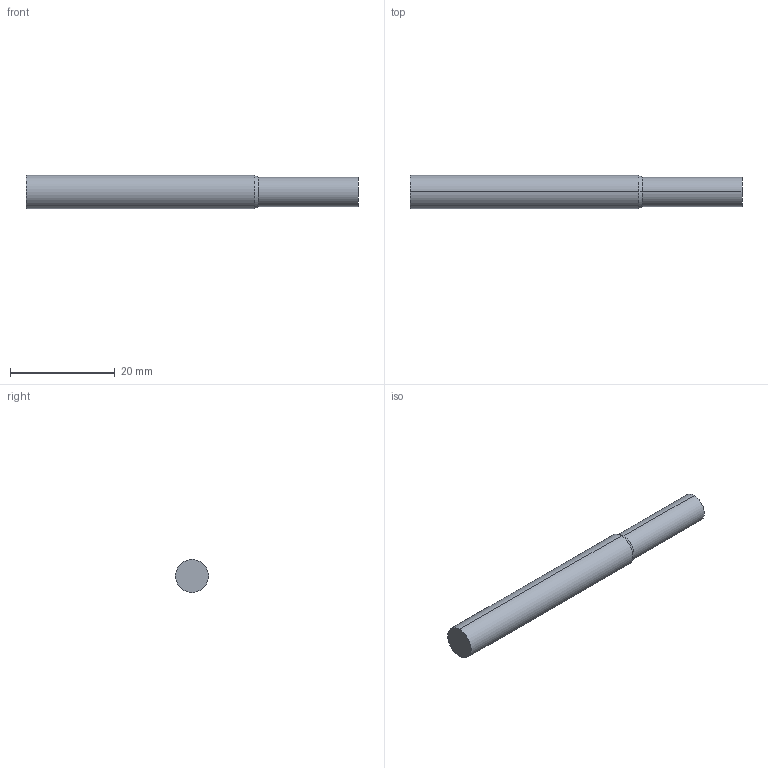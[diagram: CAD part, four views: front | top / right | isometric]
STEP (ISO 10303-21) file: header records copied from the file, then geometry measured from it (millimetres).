
FILE_DESCRIPTION (( 'STEP AP214' ), '1' );
FILE_NAME ('SSI50218-000.STEP', '2025-05-23T15:10:43', ( '' ), ( '' ), 'SwSTEP 2.0', 'SolidWorks 2023', '' );
FILE_SCHEMA (( 'AUTOMOTIVE_DESIGN' ));
Length unit declared in the file: inch
Products named in the file (3): SSI5 Imperial LOC ONLY_SSI50218-000; SSI50218-000; SSI5 Imperial SHANK ONLY_SSI50218-000
Assembly tree (2 placements, depth 2):
  SSI50218-000
    SSI5 Imperial LOC ONLY_SSI50218-000
    SSI5 Imperial SHANK ONLY_SSI50218-000
Bounding box: 63.5 x 6.35 x 6.35 mm (x, y, z)
Volume: 1866.8 mm3; surface area: 1324.7 mm2
Topology: 2 solids, 2 shells, 10 faces, 16 edges, 10 vertices
Faces by surface type: cylinder 4, plane 4, cone 2
Entity records: 384 total; most frequent: DIRECTION 56, CARTESIAN_POINT 41, ORIENTED_EDGE 32, AXIS2_PLACEMENT_3D 25, EDGE_CURVE 16, EDGE_LOOP 10, CIRCLE 10, FACE_OUTER_BOUND 10
